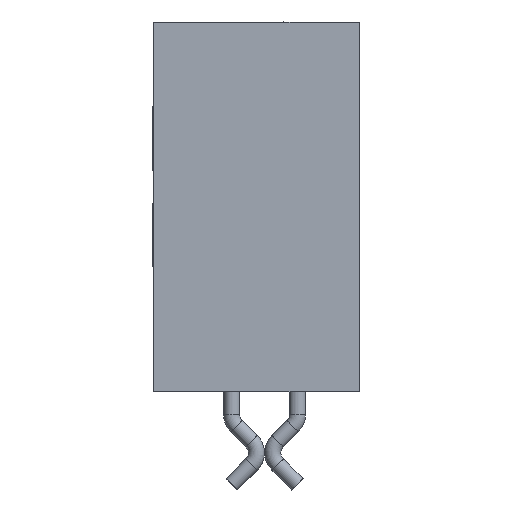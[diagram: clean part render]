
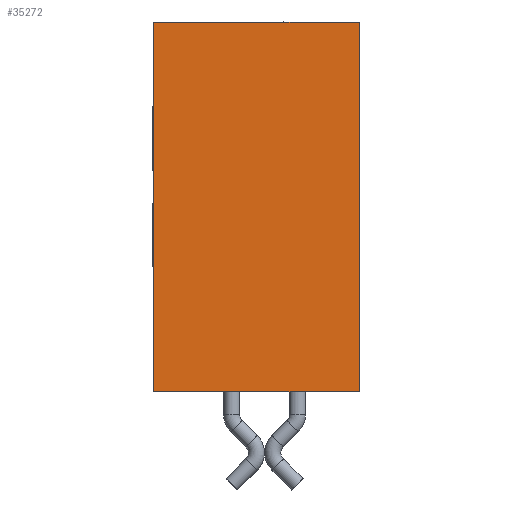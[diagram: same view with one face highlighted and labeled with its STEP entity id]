
A CAD part, left-side view. The second image highlights one B-rep face of the part: STEP entity #35272.
In plain terms, the highlighted planar face has unit normal (-1, 0, 0).
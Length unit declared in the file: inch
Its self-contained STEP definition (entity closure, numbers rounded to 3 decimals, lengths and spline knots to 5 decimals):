
#2758 = DIRECTION ( 'NONE',  ( -1., 0., 0. ) ) ;
#6987 = CARTESIAN_POINT ( 'NONE',  ( -0.45, 0.0675, -0.225 ) ) ;
#7927 = VECTOR ( 'NONE', #20939, 39.37008 ) ;
#9830 = FACE_OUTER_BOUND ( 'NONE', #22363, .T. ) ;
#10625 = ORIENTED_EDGE ( 'NONE', *, *, #22750, .T. ) ;
#10867 = EDGE_CURVE ( 'NONE', #19541, #17405, #42454, .T. ) ;
#14465 = CARTESIAN_POINT ( 'NONE',  ( -0.45, 0.0675, 0. ) ) ;
#16566 = DIRECTION ( 'NONE',  ( 0., 0., 1. ) ) ;
#16892 = EDGE_CURVE ( 'NONE', #19541, #37244, #31501, .T. ) ;
#17405 = VERTEX_POINT ( 'NONE', #37450 ) ;
#17623 = CARTESIAN_POINT ( 'NONE',  ( -0.45, -0.0575, 0. ) ) ;
#18029 = CARTESIAN_POINT ( 'NONE',  ( -0.45, 0.0675, -0.225 ) ) ;
#18178 = VECTOR ( 'NONE', #16566, 39.37008 ) ;
#19142 = CARTESIAN_POINT ( 'NONE',  ( -0.45, 0.0675, -0.225 ) ) ;
#19541 = VERTEX_POINT ( 'NONE', #30589 ) ;
#20939 = DIRECTION ( 'NONE',  ( 0., -1., 0. ) ) ;
#21676 = CARTESIAN_POINT ( 'NONE',  ( -0.45, -0.0575, -0.225 ) ) ;
#22114 = CARTESIAN_POINT ( 'NONE',  ( -0.45, -0.0575, -0.225 ) ) ;
#22262 = DIRECTION ( 'NONE',  ( 0., 0., 1. ) ) ;
#22363 = EDGE_LOOP ( 'NONE', ( #40785, #31009, #26110, #10625 ) ) ;
#22750 = EDGE_CURVE ( 'NONE', #37244, #36135, #41889, .T. ) ;
#25804 = DIRECTION ( 'NONE',  ( 0., 0., 1. ) ) ;
#26110 = ORIENTED_EDGE ( 'NONE', *, *, #16892, .T. ) ;
#30589 = CARTESIAN_POINT ( 'NONE',  ( -0.45, 0.0675, -0.225 ) ) ;
#31009 = ORIENTED_EDGE ( 'NONE', *, *, #10867, .F. ) ;
#31128 = EDGE_CURVE ( 'NONE', #17405, #36135, #33187, .T. ) ;
#31501 = LINE ( 'NONE', #18029, #40206 ) ;
#33159 = VECTOR ( 'NONE', #22262, 39.37008 ) ;
#33187 = LINE ( 'NONE', #14465, #7927 ) ;
#34506 = DIRECTION ( 'NONE',  ( 0., -1., 0. ) ) ;
#35272 = ADVANCED_FACE ( 'NONE', ( #9830 ), #38891, .T. ) ;
#36135 = VERTEX_POINT ( 'NONE', #17623 ) ;
#36808 = AXIS2_PLACEMENT_3D ( 'NONE', #19142, #2758, #25804 ) ;
#37244 = VERTEX_POINT ( 'NONE', #21676 ) ;
#37450 = CARTESIAN_POINT ( 'NONE',  ( -0.45, 0.0675, 0. ) ) ;
#38891 = PLANE ( 'NONE',  #36808 ) ;
#40206 = VECTOR ( 'NONE', #34506, 39.37008 ) ;
#40785 = ORIENTED_EDGE ( 'NONE', *, *, #31128, .F. ) ;
#41889 = LINE ( 'NONE', #22114, #33159 ) ;
#42454 = LINE ( 'NONE', #6987, #18178 ) ;
